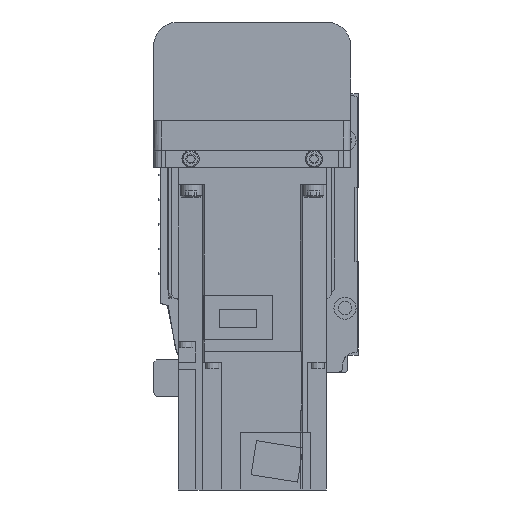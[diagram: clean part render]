
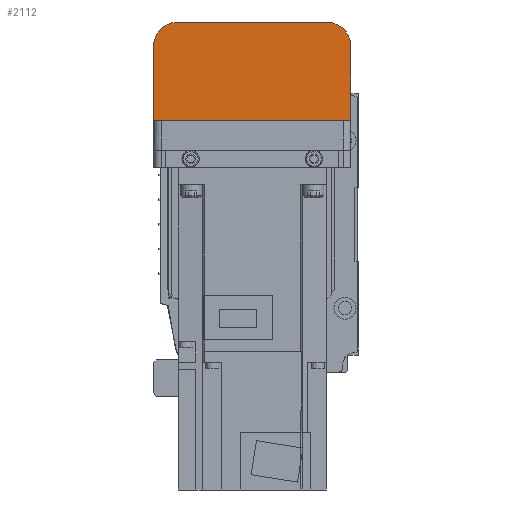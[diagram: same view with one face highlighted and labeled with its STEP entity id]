
A CAD part, left-side view. The second image highlights one B-rep face of the part: STEP entity #2112.
In plain terms, the highlighted planar face has unit normal (-1, 0, 0).
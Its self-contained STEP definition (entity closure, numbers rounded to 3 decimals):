
#2112 = ADVANCED_FACE( '', ( #4499 ), #4500, .F. );
#4499 = FACE_OUTER_BOUND( '', #7059, .T. );
#4500 = PLANE( '', #7060 );
#7059 = EDGE_LOOP( '', ( #12671, #12672, #12673, #12674, #12675, #12676 ) );
#7060 = AXIS2_PLACEMENT_3D( '', #12677, #12678, #12679 );
#12671 = ORIENTED_EDGE( '', *, *, #15013, .F. );
#12672 = ORIENTED_EDGE( '', *, *, #16559, .F. );
#12673 = ORIENTED_EDGE( '', *, *, #16560, .F. );
#12674 = ORIENTED_EDGE( '', *, *, #16561, .F. );
#12675 = ORIENTED_EDGE( '', *, *, #14962, .F. );
#12676 = ORIENTED_EDGE( '', *, *, #15078, .F. );
#12677 = CARTESIAN_POINT( '', ( -192., 37., 7. ) );
#12678 = DIRECTION( '', ( 1., 0., 0. ) );
#12679 = DIRECTION( '', ( 0., 0., -1. ) );
#14962 = EDGE_CURVE( '', #18024, #18026, #18027, .T. );
#15013 = EDGE_CURVE( '', #18108, #18110, #18111, .T. );
#15078 = EDGE_CURVE( '', #18110, #18024, #18217, .T. );
#16559 = EDGE_CURVE( '', #20331, #18108, #20332, .T. );
#16560 = EDGE_CURVE( '', #20333, #20331, #20334, .T. );
#16561 = EDGE_CURVE( '', #18026, #20333, #20335, .T. );
#18024 = VERTEX_POINT( '', #22209 );
#18026 = VERTEX_POINT( '', #22212 );
#18027 = CIRCLE( '', #22213, 10. );
#18108 = VERTEX_POINT( '', #22320 );
#18110 = VERTEX_POINT( '', #22323 );
#18111 = LINE( '', #22324, #22325 );
#18217 = LINE( '', #22465, #22466 );
#20331 = VERTEX_POINT( '', #25277 );
#20332 = LINE( '', #25278, #25279 );
#20333 = VERTEX_POINT( '', #25280 );
#20334 = CIRCLE( '', #25281, 10. );
#20335 = LINE( '', #25282, #25283 );
#22209 = CARTESIAN_POINT( '', ( -192., -40., -42. ) );
#22212 = CARTESIAN_POINT( '', ( -192., -30., -52. ) );
#22213 = AXIS2_PLACEMENT_3D( '', #26555, #26556, #26557 );
#22320 = CARTESIAN_POINT( '', ( -192., 40., -12.1 ) );
#22323 = CARTESIAN_POINT( '', ( -192., -40., -12.1 ) );
#22324 = CARTESIAN_POINT( '', ( -192., 50., -12.1 ) );
#22325 = VECTOR( '', #26621, 1000. );
#22465 = CARTESIAN_POINT( '', ( -192., -40., -12.1 ) );
#22466 = VECTOR( '', #26701, 1000. );
#25277 = CARTESIAN_POINT( '', ( -192., 40., -42. ) );
#25278 = CARTESIAN_POINT( '', ( -192., 40., -42. ) );
#25279 = VECTOR( '', #28410, 1000. );
#25280 = CARTESIAN_POINT( '', ( -192., 30., -52. ) );
#25281 = AXIS2_PLACEMENT_3D( '', #28411, #28412, #28413 );
#25282 = CARTESIAN_POINT( '', ( -192., -30., -52. ) );
#25283 = VECTOR( '', #28414, 1000. );
#26555 = CARTESIAN_POINT( '', ( -192., -30., -42. ) );
#26556 = DIRECTION( '', ( 1., 0., 0. ) );
#26557 = DIRECTION( '', ( 0., 0., -1. ) );
#26621 = DIRECTION( '', ( 0., -1., 0. ) );
#26701 = DIRECTION( '', ( 0., 0., -1. ) );
#28410 = DIRECTION( '', ( 0., 0., 1. ) );
#28411 = CARTESIAN_POINT( '', ( -192., 30., -42. ) );
#28412 = DIRECTION( '', ( 1., 0., 0. ) );
#28413 = DIRECTION( '', ( 0., 0., -1. ) );
#28414 = DIRECTION( '', ( 0., 1., 0. ) );
